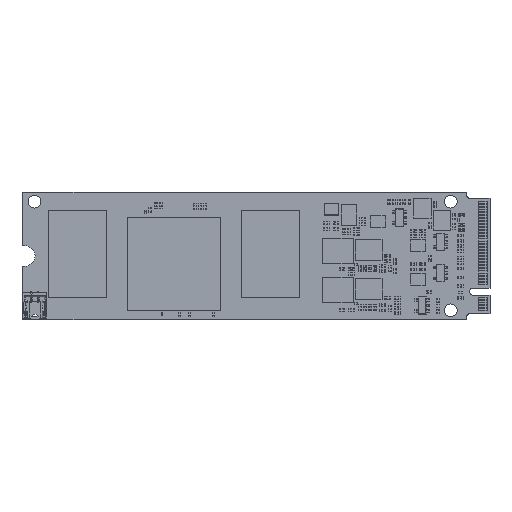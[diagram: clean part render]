
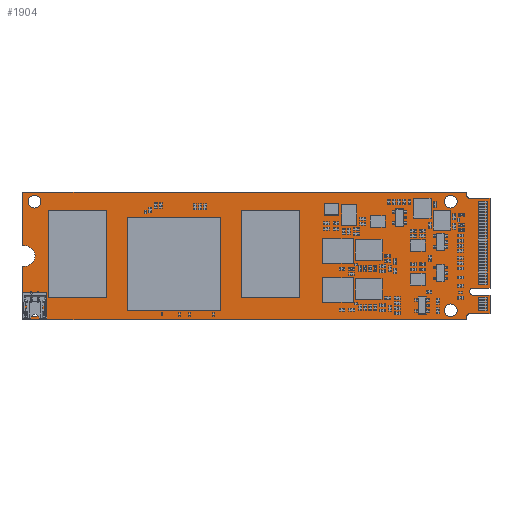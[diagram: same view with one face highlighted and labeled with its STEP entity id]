
A CAD part, top view. The second image highlights one B-rep face of the part: STEP entity #1904.
In plain terms, the highlighted planar face has unit normal (0, 0, 1).
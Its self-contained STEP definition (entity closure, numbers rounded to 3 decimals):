
#1297=DIRECTION('',(1.,0.,0.));
#1298=VECTOR('',#1297,76.);
#1299=CARTESIAN_POINT('',(0.,0.,0.8));
#1300=LINE('',#1299,#1298);
#1301=DIRECTION('',(1.,0.,0.));
#1302=VECTOR('',#1301,0.5);
#1303=CARTESIAN_POINT('',(-0.5,0.,0.8));
#1304=LINE('',#1303,#1302);
#1305=DIRECTION('',(0.,-1.,0.));
#1306=VECTOR('',#1305,9.25);
#1307=CARTESIAN_POINT('',(-0.5,9.25,0.8));
#1308=LINE('',#1307,#1306);
#1309=DIRECTION('',(-1.,0.,0.));
#1310=VECTOR('',#1309,0.5);
#1311=CARTESIAN_POINT('',(0.,9.25,0.8));
#1312=LINE('',#1311,#1310);
#1313=CARTESIAN_POINT('',(0.,11.,0.8));
#1314=DIRECTION('',(0.,0.,-1.));
#1315=DIRECTION('',(1.,0.,0.));
#1316=AXIS2_PLACEMENT_3D('',#1313,#1314,#1315);
#1318=CARTESIAN_POINT('',(0.,11.,0.8));
#1319=DIRECTION('',(0.,0.,-1.));
#1320=DIRECTION('',(0.,1.,0.));
#1321=AXIS2_PLACEMENT_3D('',#1318,#1319,#1320);
#1323=DIRECTION('',(1.,0.,0.));
#1324=VECTOR('',#1323,0.5);
#1325=CARTESIAN_POINT('',(-0.5,12.75,0.8));
#1326=LINE('',#1325,#1324);
#1327=DIRECTION('',(0.,-1.,0.));
#1328=VECTOR('',#1327,9.25);
#1329=CARTESIAN_POINT('',(-0.5,22.,0.8));
#1330=LINE('',#1329,#1328);
#1331=DIRECTION('',(-1.,0.,0.));
#1332=VECTOR('',#1331,0.5);
#1333=CARTESIAN_POINT('',(0.,22.,0.8));
#1334=LINE('',#1333,#1332);
#1335=DIRECTION('',(-1.,0.,0.));
#1336=VECTOR('',#1335,76.);
#1337=CARTESIAN_POINT('',(76.,22.,0.8));
#1338=LINE('',#1337,#1336);
#1339=DIRECTION('',(0.,1.,0.));
#1340=VECTOR('',#1339,0.575);
#1341=CARTESIAN_POINT('',(76.,21.425,0.8));
#1342=LINE('',#1341,#1340);
#1343=CARTESIAN_POINT('',(76.5,21.425,0.8));
#1344=DIRECTION('',(0.,0.,-1.));
#1345=DIRECTION('',(0.,-1.,0.));
#1346=AXIS2_PLACEMENT_3D('',#1343,#1344,#1345);
#1348=DIRECTION('',(-1.,0.,0.));
#1349=VECTOR('',#1348,3.5);
#1350=CARTESIAN_POINT('',(80.,20.925,0.8));
#1351=LINE('',#1350,#1349);
#1352=DIRECTION('',(0.,1.,0.));
#1353=VECTOR('',#1352,15.45);
#1354=CARTESIAN_POINT('',(80.,5.475,0.8));
#1355=LINE('',#1354,#1353);
#1356=DIRECTION('',(1.,0.,0.));
#1357=VECTOR('',#1356,2.9);
#1358=CARTESIAN_POINT('',(77.1,5.475,0.8));
#1359=LINE('',#1358,#1357);
#1360=CARTESIAN_POINT('',(77.1,4.875,0.8));
#1361=DIRECTION('',(0.,0.,-1.));
#1362=DIRECTION('',(-1.,0.,0.));
#1363=AXIS2_PLACEMENT_3D('',#1360,#1361,#1362);
#1365=CARTESIAN_POINT('',(77.1,4.875,0.8));
#1366=DIRECTION('',(0.,0.,-1.));
#1367=DIRECTION('',(0.,-1.,0.));
#1368=AXIS2_PLACEMENT_3D('',#1365,#1366,#1367);
#1370=DIRECTION('',(-1.,0.,0.));
#1371=VECTOR('',#1370,2.9);
#1372=CARTESIAN_POINT('',(80.,4.275,0.8));
#1373=LINE('',#1372,#1371);
#1374=DIRECTION('',(0.,1.,0.));
#1375=VECTOR('',#1374,3.2);
#1376=CARTESIAN_POINT('',(80.,1.075,0.8));
#1377=LINE('',#1376,#1375);
#1378=DIRECTION('',(1.,0.,0.));
#1379=VECTOR('',#1378,3.5);
#1380=CARTESIAN_POINT('',(76.5,1.075,0.8));
#1381=LINE('',#1380,#1379);
#1382=CARTESIAN_POINT('',(76.5,0.575,0.8));
#1383=DIRECTION('',(0.,0.,-1.));
#1384=DIRECTION('',(-1.,0.,0.));
#1385=AXIS2_PLACEMENT_3D('',#1382,#1383,#1384);
#1387=DIRECTION('',(0.,1.,0.));
#1388=VECTOR('',#1387,0.575);
#1389=CARTESIAN_POINT('',(76.,0.,0.8));
#1390=LINE('',#1389,#1388);
#1391=CARTESIAN_POINT('',(1.65,1.65,0.8));
#1392=DIRECTION('',(0.,0.,1.));
#1393=DIRECTION('',(1.,0.,0.));
#1394=AXIS2_PLACEMENT_3D('',#1391,#1392,#1393);
#1396=CARTESIAN_POINT('',(1.65,1.65,0.8));
#1397=DIRECTION('',(0.,0.,1.));
#1398=DIRECTION('',(-1.,0.,0.));
#1399=AXIS2_PLACEMENT_3D('',#1396,#1397,#1398);
#1401=CARTESIAN_POINT('',(1.65,20.35,0.8));
#1402=DIRECTION('',(0.,0.,1.));
#1403=DIRECTION('',(1.,0.,0.));
#1404=AXIS2_PLACEMENT_3D('',#1401,#1402,#1403);
#1406=CARTESIAN_POINT('',(1.65,20.35,0.8));
#1407=DIRECTION('',(0.,0.,1.));
#1408=DIRECTION('',(-1.,0.,0.));
#1409=AXIS2_PLACEMENT_3D('',#1406,#1407,#1408);
#1411=CARTESIAN_POINT('',(73.25,1.65,0.8));
#1412=DIRECTION('',(0.,0.,1.));
#1413=DIRECTION('',(1.,0.,0.));
#1414=AXIS2_PLACEMENT_3D('',#1411,#1412,#1413);
#1416=CARTESIAN_POINT('',(73.25,1.65,0.8));
#1417=DIRECTION('',(0.,0.,1.));
#1418=DIRECTION('',(-1.,0.,0.));
#1419=AXIS2_PLACEMENT_3D('',#1416,#1417,#1418);
#1421=CARTESIAN_POINT('',(73.25,20.35,0.8));
#1422=DIRECTION('',(0.,0.,1.));
#1423=DIRECTION('',(1.,0.,0.));
#1424=AXIS2_PLACEMENT_3D('',#1421,#1422,#1423);
#1426=CARTESIAN_POINT('',(73.25,20.35,0.8));
#1427=DIRECTION('',(0.,0.,1.));
#1428=DIRECTION('',(-1.,0.,0.));
#1429=AXIS2_PLACEMENT_3D('',#1426,#1427,#1428);
#1559=CARTESIAN_POINT('',(0.,0.,0.8));
#1560=CARTESIAN_POINT('',(76.,0.,0.8));
#1561=VERTEX_POINT('',#1559);
#1562=VERTEX_POINT('',#1560);
#1563=CARTESIAN_POINT('',(76.,0.575,0.8));
#1564=VERTEX_POINT('',#1563);
#1565=CARTESIAN_POINT('',(76.5,1.075,0.8));
#1566=VERTEX_POINT('',#1565);
#1567=CARTESIAN_POINT('',(80.,1.075,0.8));
#1568=VERTEX_POINT('',#1567);
#1569=CARTESIAN_POINT('',(80.,4.275,0.8));
#1570=VERTEX_POINT('',#1569);
#1571=CARTESIAN_POINT('',(77.1,4.275,0.8));
#1572=VERTEX_POINT('',#1571);
#1573=CARTESIAN_POINT('',(76.5,4.875,0.8));
#1574=VERTEX_POINT('',#1573);
#1575=CARTESIAN_POINT('',(77.1,5.475,0.8));
#1576=VERTEX_POINT('',#1575);
#1577=CARTESIAN_POINT('',(80.,5.475,0.8));
#1578=VERTEX_POINT('',#1577);
#1579=CARTESIAN_POINT('',(80.,20.925,0.8));
#1580=VERTEX_POINT('',#1579);
#1581=CARTESIAN_POINT('',(76.5,20.925,0.8));
#1582=VERTEX_POINT('',#1581);
#1583=CARTESIAN_POINT('',(76.,21.425,0.8));
#1584=VERTEX_POINT('',#1583);
#1585=CARTESIAN_POINT('',(76.,22.,0.8));
#1586=VERTEX_POINT('',#1585);
#1587=CARTESIAN_POINT('',(0.,22.,0.8));
#1588=VERTEX_POINT('',#1587);
#1589=CARTESIAN_POINT('',(-0.5,22.,0.8));
#1590=VERTEX_POINT('',#1589);
#1591=CARTESIAN_POINT('',(-0.5,12.75,0.8));
#1592=VERTEX_POINT('',#1591);
#1593=CARTESIAN_POINT('',(0.,12.75,0.8));
#1594=VERTEX_POINT('',#1593);
#1595=CARTESIAN_POINT('',(1.75,11.,0.8));
#1596=VERTEX_POINT('',#1595);
#1597=CARTESIAN_POINT('',(0.,9.25,0.8));
#1598=VERTEX_POINT('',#1597);
#1599=CARTESIAN_POINT('',(-0.5,9.25,0.8));
#1600=VERTEX_POINT('',#1599);
#1601=CARTESIAN_POINT('',(-0.5,0.,0.8));
#1602=VERTEX_POINT('',#1601);
#1607=CARTESIAN_POINT('',(2.75,1.65,0.8));
#1608=CARTESIAN_POINT('',(0.55,1.65,0.8));
#1609=VERTEX_POINT('',#1607);
#1610=VERTEX_POINT('',#1608);
#1615=CARTESIAN_POINT('',(2.75,20.35,0.8));
#1616=CARTESIAN_POINT('',(0.55,20.35,0.8));
#1617=VERTEX_POINT('',#1615);
#1618=VERTEX_POINT('',#1616);
#1623=CARTESIAN_POINT('',(74.35,1.65,0.8));
#1624=CARTESIAN_POINT('',(72.15,1.65,0.8));
#1625=VERTEX_POINT('',#1623);
#1626=VERTEX_POINT('',#1624);
#1631=CARTESIAN_POINT('',(74.35,20.35,0.8));
#1632=CARTESIAN_POINT('',(72.15,20.35,0.8));
#1633=VERTEX_POINT('',#1631);
#1634=VERTEX_POINT('',#1632);
#1838=CARTESIAN_POINT('',(0.,0.,0.8));
#1839=DIRECTION('',(0.,0.,1.));
#1840=DIRECTION('',(1.,0.,0.));
#1841=AXIS2_PLACEMENT_3D('',#1838,#1839,#1840);
#1842=PLANE('',#1841);
#1843=ORIENTED_EDGE('',*,*,#1734,.F.);
#1844=ORIENTED_EDGE('',*,*,#1749,.F.);
#1845=ORIENTED_EDGE('',*,*,#1763,.F.);
#1846=ORIENTED_EDGE('',*,*,#1777,.F.);
#1847=ORIENTED_EDGE('',*,*,#1791,.F.);
#1848=ORIENTED_EDGE('',*,*,#1805,.F.);
#1849=ORIENTED_EDGE('',*,*,#1819,.F.);
#1850=ORIENTED_EDGE('',*,*,#1832,.F.);
#1851=ORIENTED_EDGE('',*,*,#1644,.F.);
#1853=ORIENTED_EDGE('',*,*,#1852,.F.);
#1855=ORIENTED_EDGE('',*,*,#1854,.F.);
#1857=ORIENTED_EDGE('',*,*,#1856,.F.);
#1859=ORIENTED_EDGE('',*,*,#1858,.F.);
#1861=ORIENTED_EDGE('',*,*,#1860,.F.);
#1863=ORIENTED_EDGE('',*,*,#1862,.F.);
#1865=ORIENTED_EDGE('',*,*,#1864,.F.);
#1867=ORIENTED_EDGE('',*,*,#1866,.F.);
#1869=ORIENTED_EDGE('',*,*,#1868,.F.);
#1871=ORIENTED_EDGE('',*,*,#1870,.F.);
#1873=ORIENTED_EDGE('',*,*,#1872,.F.);
#1875=ORIENTED_EDGE('',*,*,#1874,.F.);
#1877=ORIENTED_EDGE('',*,*,#1876,.F.);
#1878=EDGE_LOOP('',(#1843,#1844,#1845,#1846,#1847,#1848,#1849,#1850,#1851,#1853,
#1855,#1857,#1859,#1861,#1863,#1865,#1867,#1869,#1871,#1873,#1875,#1877));
#1879=FACE_OUTER_BOUND('',#1878,.F.);
#1881=ORIENTED_EDGE('',*,*,#1880,.T.);
#1883=ORIENTED_EDGE('',*,*,#1882,.T.);
#1884=EDGE_LOOP('',(#1881,#1883));
#1885=FACE_BOUND('',#1884,.F.);
#1887=ORIENTED_EDGE('',*,*,#1886,.T.);
#1889=ORIENTED_EDGE('',*,*,#1888,.T.);
#1890=EDGE_LOOP('',(#1887,#1889));
#1891=FACE_BOUND('',#1890,.F.);
#1893=ORIENTED_EDGE('',*,*,#1892,.T.);
#1895=ORIENTED_EDGE('',*,*,#1894,.T.);
#1896=EDGE_LOOP('',(#1893,#1895));
#1897=FACE_BOUND('',#1896,.F.);
#1899=ORIENTED_EDGE('',*,*,#1898,.T.);
#1901=ORIENTED_EDGE('',*,*,#1900,.T.);
#1902=EDGE_LOOP('',(#1899,#1901));
#1903=FACE_BOUND('',#1902,.F.);
#1904=ADVANCED_FACE('',(#1879,#1885,#1891,#1897,#1903),#1842,.T.);
#1317=CIRCLE('',#1316,1.75);
#1322=CIRCLE('',#1321,1.75);
#1347=CIRCLE('',#1346,0.5);
#1364=CIRCLE('',#1363,0.6);
#1369=CIRCLE('',#1368,0.6);
#1386=CIRCLE('',#1385,0.5);
#1395=CIRCLE('',#1394,1.1);
#1400=CIRCLE('',#1399,1.1);
#1405=CIRCLE('',#1404,1.1);
#1410=CIRCLE('',#1409,1.1);
#1415=CIRCLE('',#1414,1.1);
#1420=CIRCLE('',#1419,1.1);
#1425=CIRCLE('',#1424,1.1);
#1430=CIRCLE('',#1429,1.1);
#1644=EDGE_CURVE('',#1588,#1590,#1334,.T.);
#1734=EDGE_CURVE('',#1561,#1562,#1300,.T.);
#1749=EDGE_CURVE('',#1602,#1561,#1304,.T.);
#1763=EDGE_CURVE('',#1600,#1602,#1308,.T.);
#1777=EDGE_CURVE('',#1598,#1600,#1312,.T.);
#1791=EDGE_CURVE('',#1596,#1598,#1317,.T.);
#1805=EDGE_CURVE('',#1594,#1596,#1322,.T.);
#1819=EDGE_CURVE('',#1592,#1594,#1326,.T.);
#1832=EDGE_CURVE('',#1590,#1592,#1330,.T.);
#1852=EDGE_CURVE('',#1586,#1588,#1338,.T.);
#1854=EDGE_CURVE('',#1584,#1586,#1342,.T.);
#1856=EDGE_CURVE('',#1582,#1584,#1347,.T.);
#1858=EDGE_CURVE('',#1580,#1582,#1351,.T.);
#1860=EDGE_CURVE('',#1578,#1580,#1355,.T.);
#1862=EDGE_CURVE('',#1576,#1578,#1359,.T.);
#1864=EDGE_CURVE('',#1574,#1576,#1364,.T.);
#1866=EDGE_CURVE('',#1572,#1574,#1369,.T.);
#1868=EDGE_CURVE('',#1570,#1572,#1373,.T.);
#1870=EDGE_CURVE('',#1568,#1570,#1377,.T.);
#1872=EDGE_CURVE('',#1566,#1568,#1381,.T.);
#1874=EDGE_CURVE('',#1564,#1566,#1386,.T.);
#1876=EDGE_CURVE('',#1562,#1564,#1390,.T.);
#1880=EDGE_CURVE('',#1609,#1610,#1395,.T.);
#1882=EDGE_CURVE('',#1610,#1609,#1400,.T.);
#1886=EDGE_CURVE('',#1617,#1618,#1405,.T.);
#1888=EDGE_CURVE('',#1618,#1617,#1410,.T.);
#1892=EDGE_CURVE('',#1625,#1626,#1415,.T.);
#1894=EDGE_CURVE('',#1626,#1625,#1420,.T.);
#1898=EDGE_CURVE('',#1633,#1634,#1425,.T.);
#1900=EDGE_CURVE('',#1634,#1633,#1430,.T.);
